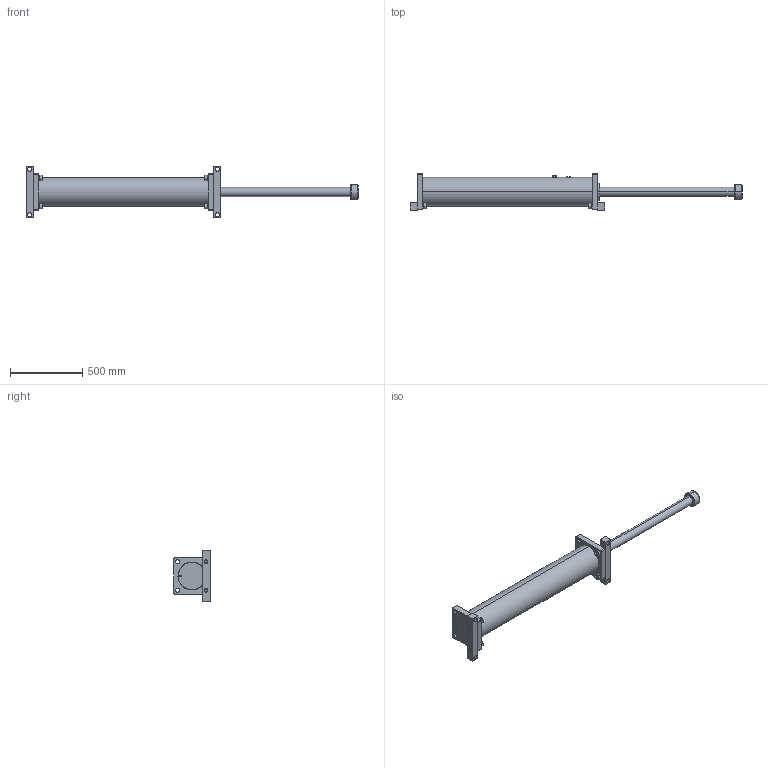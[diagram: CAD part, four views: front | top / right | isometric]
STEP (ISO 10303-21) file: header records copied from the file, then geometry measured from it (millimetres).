
FILE_DESCRIPTION (( 'STEP AP214' ), '1' );
FILE_NAME ('LDD4.0X36.STEP', '2019-01-16T08:55:02', ( 'user' ), ( 'Microsoft' ), 'SwSTEP 2.0', 'SolidWorks 2016', '' );
FILE_SCHEMA (( 'AUTOMOTIVE_DESIGN' ));
Length unit declared in the file: inch
Products named in the file (1): LDD4.0X36
Bounding box: 2302 x 251.5 x 360 mm (x, y, z)
Volume: 19054699 mm3; surface area: 2590269.3 mm2
Topology: 19 solids, 19 shells, 607 faces, 1336 edges, 794 vertices
Faces by surface type: cylinder 194, cone 168, plane 135, bspline 110
Entity records: 23656 total; most frequent: CARTESIAN_POINT 10212, DIRECTION 2884, ORIENTED_EDGE 2640, EDGE_CURVE 1320, AXIS2_PLACEMENT_3D 1186, VERTEX_POINT 794, EDGE_LOOP 702, CIRCLE 688
